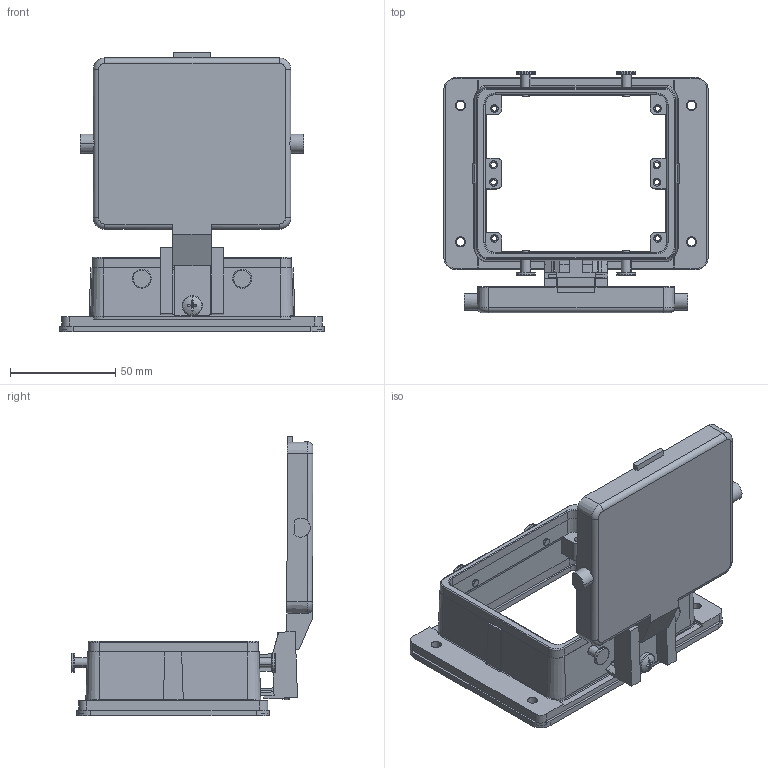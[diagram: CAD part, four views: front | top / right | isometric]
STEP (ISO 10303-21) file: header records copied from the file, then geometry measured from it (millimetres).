
FILE_DESCRIPTION (( 'STEP AP214' ), '1' );
FILE_NAME ('CHI-32CS.STEP', '2006-07-06T15:11:52', ( 'Mencom User' ), ( 'Mencom Corporation' ), 'SwSTEP 2.0', 'SolidWorks 2006104', '' );
FILE_SCHEMA (( 'AUTOMOTIVE_DESIGN' ));
Length unit declared in the file: inch
Products named in the file (1): CHI-32CS
Bounding box: 125.98 x 115.1 x 133.25 mm (x, y, z)
Surface area: 68810.9 mm2 (no closed solid volume)
Topology: 0 solids, 15 shells, 394 faces, 1124 edges, 744 vertices
Faces by surface type: plane 172, cylinder 166, torus 38, cone 16, sphere 2
Entity records: 18076 total; most frequent: CARTESIAN_POINT 2508, DIRECTION 2302, ORIENTED_EDGE 2020, EDGE_CURVE 1124, AXIS2_PLACEMENT_3D 840, VERTEX_POINT 744, LINE 622, VECTOR 622
